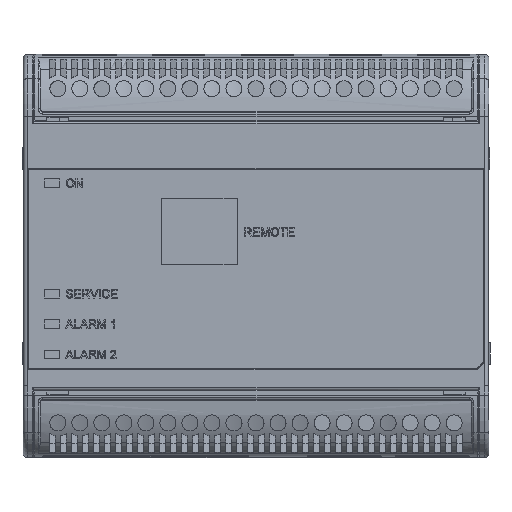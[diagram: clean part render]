
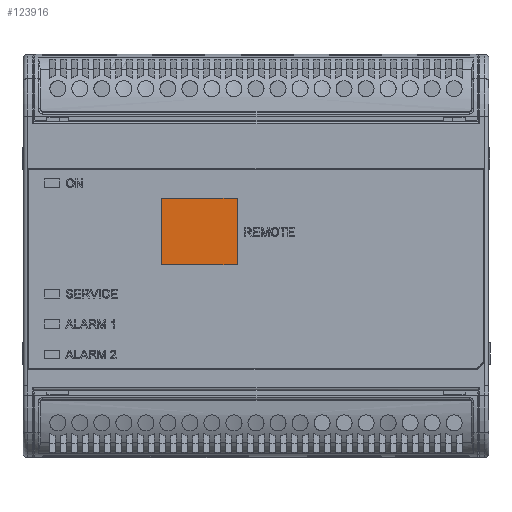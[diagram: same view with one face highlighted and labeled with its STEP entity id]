
A CAD part, top view. The second image highlights one B-rep face of the part: STEP entity #123916.
In plain terms, the highlighted planar face has unit normal (0, 0, 1).
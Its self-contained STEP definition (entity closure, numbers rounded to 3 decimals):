
#4548 = CARTESIAN_POINT ( 'NONE',  ( 30.6, 23.93, 0.75 ) ) ;
#6715 = VECTOR ( 'NONE', #16658, 1000. ) ;
#7491 = VECTOR ( 'NONE', #129155, 1000. ) ;
#10659 = ORIENTED_EDGE ( 'NONE', *, *, #108461, .T. ) ;
#12684 = CARTESIAN_POINT ( 'NONE',  ( 48.1, 39.27, 0.75 ) ) ;
#15291 = CARTESIAN_POINT ( 'NONE',  ( 48.1, 23.93, 0.75 ) ) ;
#16658 = DIRECTION ( 'NONE',  ( 0., -1., 0. ) ) ;
#22808 = CARTESIAN_POINT ( 'NONE',  ( 30.6, 39.27, 0.75 ) ) ;
#25541 = VECTOR ( 'NONE', #42059, 1000. ) ;
#36521 = ORIENTED_EDGE ( 'NONE', *, *, #135365, .T. ) ;
#36632 = LINE ( 'NONE', #86556, #96513 ) ;
#37048 = CARTESIAN_POINT ( 'NONE',  ( 30.6, 23.93, 0.75 ) ) ;
#40851 = ORIENTED_EDGE ( 'NONE', *, *, #98229, .T. ) ;
#42059 = DIRECTION ( 'NONE',  ( 1., 0., 0. ) ) ;
#50906 = AXIS2_PLACEMENT_3D ( 'NONE', #116680, #92588, #69108 ) ;
#52989 = ORIENTED_EDGE ( 'NONE', *, *, #140435, .T. ) ;
#57022 = CARTESIAN_POINT ( 'NONE',  ( 30.6, 39.27, 0.75 ) ) ;
#57115 = PLANE ( 'NONE',  #50906 ) ;
#69108 = DIRECTION ( 'NONE',  ( -1., 0., 0. ) ) ;
#86556 = CARTESIAN_POINT ( 'NONE',  ( 48.1, 23.93, 0.75 ) ) ;
#89141 = LINE ( 'NONE', #89572, #25541 ) ;
#89572 = CARTESIAN_POINT ( 'NONE',  ( 30.6, 23.93, 0.75 ) ) ;
#92588 = DIRECTION ( 'NONE',  ( 0., 0., -1. ) ) ;
#96513 = VECTOR ( 'NONE', #98128, 1000. ) ;
#98128 = DIRECTION ( 'NONE',  ( 0., 1., 0. ) ) ;
#98229 = EDGE_CURVE ( 'NONE', #131977, #101305, #36632, .T. ) ;
#101305 = VERTEX_POINT ( 'NONE', #12684 ) ;
#105143 = EDGE_LOOP ( 'NONE', ( #52989, #36521, #40851, #10659 ) ) ;
#108461 = EDGE_CURVE ( 'NONE', #101305, #112605, #134989, .T. ) ;
#112605 = VERTEX_POINT ( 'NONE', #22808 ) ;
#116680 = CARTESIAN_POINT ( 'NONE',  ( 0., 0., 0.75 ) ) ;
#123916 = ADVANCED_FACE ( 'NONE', ( #139251 ), #57115, .F. ) ;
#129155 = DIRECTION ( 'NONE',  ( -1., 0., 0. ) ) ;
#131977 = VERTEX_POINT ( 'NONE', #15291 ) ;
#134218 = LINE ( 'NONE', #4548, #6715 ) ;
#134989 = LINE ( 'NONE', #57022, #7491 ) ;
#135365 = EDGE_CURVE ( 'NONE', #153852, #131977, #89141, .T. ) ;
#139251 = FACE_OUTER_BOUND ( 'NONE', #105143, .T. ) ;
#140435 = EDGE_CURVE ( 'NONE', #112605, #153852, #134218, .T. ) ;
#153852 = VERTEX_POINT ( 'NONE', #37048 ) ;
